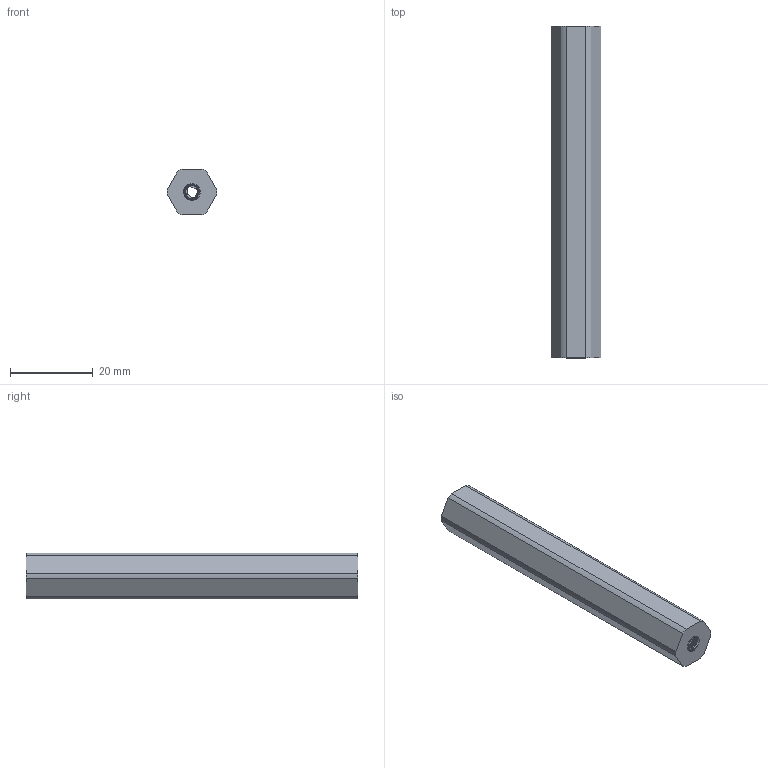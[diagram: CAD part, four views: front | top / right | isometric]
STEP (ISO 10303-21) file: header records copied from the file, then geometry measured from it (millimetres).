
FILE_DESCRIPTION (( 'STEP AP203' ), '1' );
FILE_NAME ('2104-0012-0080.STEP', '2018-03-09T17:41:18', ( '' ), ( '' ), 'SwSTEP 2.0', 'SolidWorks 2016', '' );
FILE_SCHEMA (( 'CONFIG_CONTROL_DESIGN' ));
Length unit declared in the file: millimetre
Products named in the file (1): 2104-0012-0080
Bounding box: 11.99 x 80 x 11 mm (x, y, z)
Volume: 7543.3 mm3; surface area: 4175.6 mm2
Topology: 1 solids, 1 shells, 190 faces, 558 edges, 370 vertices
Faces by surface type: cylinder 168, plane 10, cone 8, bspline 4
Entity records: 11993 total; most frequent: CARTESIAN_POINT 7843, ORIENTED_EDGE 1116, DIRECTION 624, EDGE_CURVE 558, VERTEX_POINT 370, AXIS2_PLACEMENT_3D 217, EDGE_LOOP 192, LINE 190
